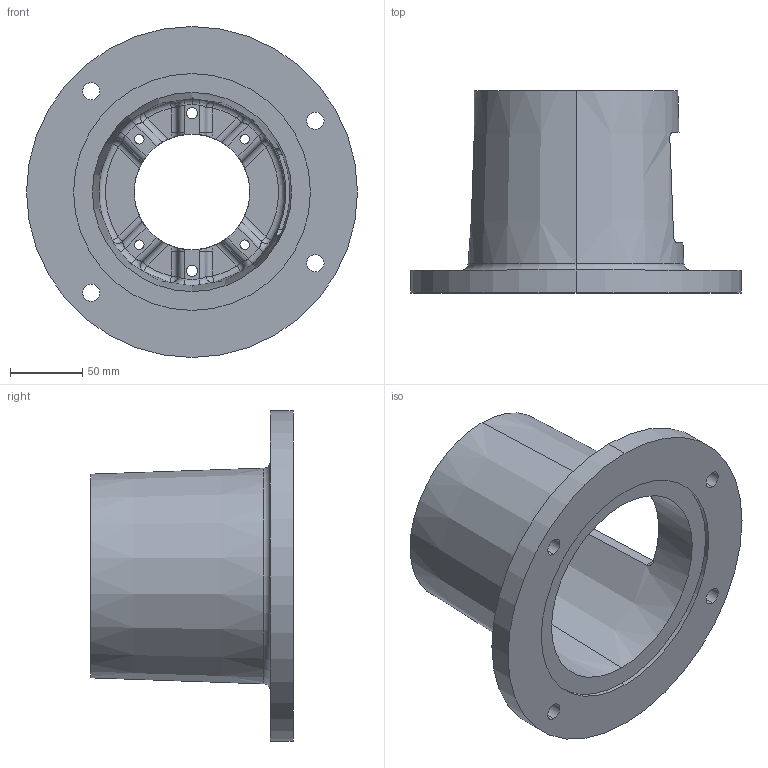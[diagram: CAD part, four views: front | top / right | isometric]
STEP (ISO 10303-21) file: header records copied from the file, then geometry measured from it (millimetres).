
FILE_DESCRIPTION (( 'STEP AP203' ), '1' );
FILE_NAME ('E6445580M.STEP', '2014-11-03T17:57:05', ( '' ), ( '' ), 'SwSTEP 2.0', 'SolidWorks 2014', '' );
FILE_SCHEMA (( 'CONFIG_CONTROL_DESIGN' ));
Length unit declared in the file: inch
Products named in the file (1): E6445580M
Bounding box: 228.6 x 139.7 x 228.6 mm (x, y, z)
Volume: 786999.7 mm3; surface area: 190159.2 mm2
Topology: 1 solids, 1 shells, 153 faces, 388 edges, 227 vertices
Faces by surface type: cylinder 58, plane 32, bspline 24, torus 23, sphere 12, cone 4
Entity records: 6533 total; most frequent: CARTESIAN_POINT 2915, ORIENTED_EDGE 752, DIRECTION 742, EDGE_CURVE 376, AXIS2_PLACEMENT_3D 320, VERTEX_POINT 227, CIRCLE 190, EDGE_LOOP 179
